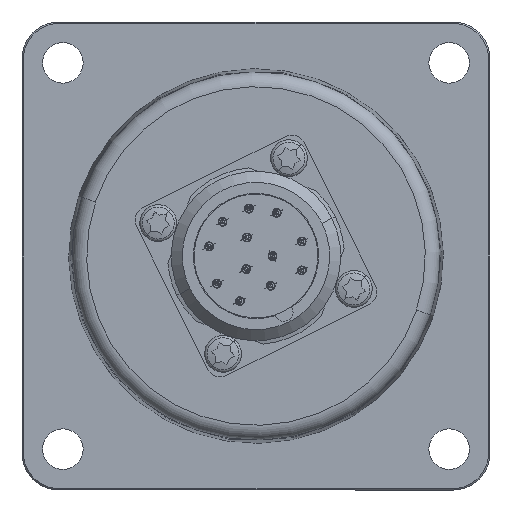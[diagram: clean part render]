
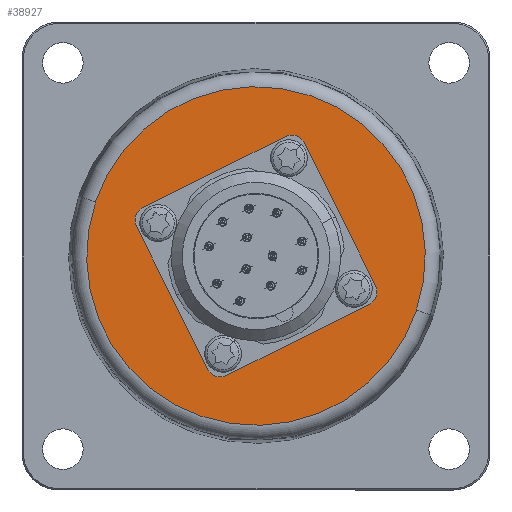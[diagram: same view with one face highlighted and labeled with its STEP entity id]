
A CAD part, left-side view. The second image highlights one B-rep face of the part: STEP entity #38927.
In plain terms, the highlighted planar face has unit normal (-1, 0, 0).
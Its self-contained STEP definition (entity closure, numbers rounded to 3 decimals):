
#472 = DIRECTION ( 'NONE',  ( 0., 0.948, 0.319 ) ) ;
#473 = DIRECTION ( 'NONE',  ( 1., 0., 0. ) ) ;
#474 = CARTESIAN_POINT ( 'NONE',  ( -21., -13.268, -4.469 ) ) ;
#475 = AXIS2_PLACEMENT_3D ( 'NONE', #474, #473, #472 ) ;
#476 = CIRCLE ( 'NONE', #475, 1.389 ) ;
#662 = DIRECTION ( 'NONE',  ( 0., 0.948, 0.319 ) ) ;
#663 = DIRECTION ( 'NONE',  ( 1., 0., 0. ) ) ;
#664 = CARTESIAN_POINT ( 'NONE',  ( -21., -4.469, 13.268 ) ) ;
#665 = AXIS2_PLACEMENT_3D ( 'NONE', #664, #663, #662 ) ;
#666 = CIRCLE ( 'NONE', #665, 1.389 ) ;
#735 = DIRECTION ( 'NONE',  ( 0., 0.948, 0.319 ) ) ;
#736 = DIRECTION ( 'NONE',  ( 1., 0., 0. ) ) ;
#737 = CARTESIAN_POINT ( 'NONE',  ( -21., 4.469, -13.268 ) ) ;
#738 = AXIS2_PLACEMENT_3D ( 'NONE', #737, #736, #735 ) ;
#744 = CIRCLE ( 'NONE', #738, 1.389 ) ;
#788 = DIRECTION ( 'NONE',  ( 0., -0.948, -0.319 ) ) ;
#789 = DIRECTION ( 'NONE',  ( -1., 0., 0. ) ) ;
#790 = CARTESIAN_POINT ( 'NONE',  ( -21., 0., 0. ) ) ;
#791 = AXIS2_PLACEMENT_3D ( 'NONE', #790, #789, #788 ) ;
#792 = CIRCLE ( 'NONE', #791, 11.5 ) ;
#857 = DIRECTION ( 'NONE',  ( 0., 0.948, 0.319 ) ) ;
#858 = DIRECTION ( 'NONE',  ( -1., 0., 0. ) ) ;
#859 = CARTESIAN_POINT ( 'NONE',  ( -21., 0., 0. ) ) ;
#860 = AXIS2_PLACEMENT_3D ( 'NONE', #859, #858, #857 ) ;
#861 = CIRCLE ( 'NONE', #860, 22.972 ) ;
#887 = FACE_BOUND ( 'NONE', #38933, .T. ) ;
#888 = FACE_BOUND ( 'NONE', #38915, .T. ) ;
#916 = CARTESIAN_POINT ( 'NONE',  ( -21., 13.268, 4.469 ) ) ;
#917 = AXIS2_PLACEMENT_3D ( 'NONE', #916, #979, #978 ) ;
#918 = CIRCLE ( 'NONE', #917, 1.389 ) ;
#921 = DIRECTION ( 'NONE',  ( 0., 0.948, 0.319 ) ) ;
#922 = DIRECTION ( 'NONE',  ( 1., 0., 0. ) ) ;
#923 = CARTESIAN_POINT ( 'NONE',  ( -21., 0., 0. ) ) ;
#924 = AXIS2_PLACEMENT_3D ( 'NONE', #923, #922, #921 ) ;
#925 = PLANE ( 'NONE',  #924 ) ;
#940 = FACE_BOUND ( 'NONE', #38920, .T. ) ;
#941 = FACE_OUTER_BOUND ( 'NONE', #16324, .T. ) ;
#942 = FACE_BOUND ( 'NONE', #38867, .T. ) ;
#943 = FACE_BOUND ( 'NONE', #38864, .T. ) ;
#978 = DIRECTION ( 'NONE',  ( 0., 0.948, 0.319 ) ) ;
#979 = DIRECTION ( 'NONE',  ( 1., 0., 0. ) ) ;
#9008 = CARTESIAN_POINT ( 'NONE',  ( -21., -5.785, 12.825 ) ) ;
#9009 = DIRECTION ( 'NONE',  ( 0., 0.948, 0.319 ) ) ;
#9010 = DIRECTION ( 'NONE',  ( 1., 0., 0. ) ) ;
#9011 = CARTESIAN_POINT ( 'NONE',  ( -21., -4.469, 13.268 ) ) ;
#9012 = AXIS2_PLACEMENT_3D ( 'NONE', #9011, #9010, #9009 ) ;
#9013 = CIRCLE ( 'NONE', #9012, 1.389 ) ;
#9014 = CARTESIAN_POINT ( 'NONE',  ( -21., -3.153, 13.712 ) ) ;
#9052 = DIRECTION ( 'NONE',  ( 1., 0., 0. ) ) ;
#9053 = CARTESIAN_POINT ( 'NONE',  ( -21., 4.469, -13.268 ) ) ;
#9054 = AXIS2_PLACEMENT_3D ( 'NONE', #9053, #9052, #9102 ) ;
#9055 = CIRCLE ( 'NONE', #9054, 1.389 ) ;
#9057 = CARTESIAN_POINT ( 'NONE',  ( -21., 5.785, -12.825 ) ) ;
#9101 = CARTESIAN_POINT ( 'NONE',  ( -21., 3.153, -13.712 ) ) ;
#9102 = DIRECTION ( 'NONE',  ( 0., 0.948, 0.319 ) ) ;
#9189 = CARTESIAN_POINT ( 'NONE',  ( -21., -14.584, -4.912 ) ) ;
#9190 = DIRECTION ( 'NONE',  ( 0., 0.948, 0.319 ) ) ;
#9191 = DIRECTION ( 'NONE',  ( 1., 0., 0. ) ) ;
#9192 = CARTESIAN_POINT ( 'NONE',  ( -21., -13.268, -4.469 ) ) ;
#9193 = AXIS2_PLACEMENT_3D ( 'NONE', #9192, #9191, #9190 ) ;
#9194 = CIRCLE ( 'NONE', #9193, 1.389 ) ;
#9195 = CARTESIAN_POINT ( 'NONE',  ( -21., -11.952, -4.026 ) ) ;
#16324 = EDGE_LOOP ( 'NONE', ( #38916, #38848 ) ) ;
#30484 = VERTEX_POINT ( 'NONE', #9014 ) ;
#30486 = EDGE_CURVE ( 'NONE', #30488, #30484, #9013, .T. ) ;
#30488 = VERTEX_POINT ( 'NONE', #9008 ) ;
#30515 = VERTEX_POINT ( 'NONE', #9057 ) ;
#30517 = EDGE_CURVE ( 'NONE', #30519, #30515, #9055, .T. ) ;
#30519 = VERTEX_POINT ( 'NONE', #9101 ) ;
#30580 = VERTEX_POINT ( 'NONE', #9195 ) ;
#30582 = EDGE_CURVE ( 'NONE', #30583, #30580, #9194, .T. ) ;
#30583 = VERTEX_POINT ( 'NONE', #9189 ) ;
#32029 = CARTESIAN_POINT ( 'NONE',  ( -21., 14.584, 4.912 ) ) ;
#32522 = DIRECTION ( 'NONE',  ( 0., 0.948, 0.319 ) ) ;
#32524 = DIRECTION ( 'NONE',  ( 1., 0., 0. ) ) ;
#32526 = CARTESIAN_POINT ( 'NONE',  ( -21., 13.268, 4.469 ) ) ;
#32527 = AXIS2_PLACEMENT_3D ( 'NONE', #32526, #32524, #32522 ) ;
#32528 = CIRCLE ( 'NONE', #32527, 1.389 ) ;
#32533 = CARTESIAN_POINT ( 'NONE',  ( -21., 11.952, 4.026 ) ) ;
#32568 = CARTESIAN_POINT ( 'NONE',  ( -21., 21.77, 7.332 ) ) ;
#32570 = DIRECTION ( 'NONE',  ( 0., 0.948, 0.319 ) ) ;
#32572 = DIRECTION ( 'NONE',  ( -1., 0., 0. ) ) ;
#32574 = CARTESIAN_POINT ( 'NONE',  ( -21., 0., 0. ) ) ;
#32576 = AXIS2_PLACEMENT_3D ( 'NONE', #32574, #32572, #32570 ) ;
#32577 = CIRCLE ( 'NONE', #32576, 22.972 ) ;
#32616 = CARTESIAN_POINT ( 'NONE',  ( -21., -21.77, -7.332 ) ) ;
#33937 = CARTESIAN_POINT ( 'NONE',  ( -21., 10.898, 3.671 ) ) ;
#34169 = DIRECTION ( 'NONE',  ( 0., -0.948, -0.319 ) ) ;
#34170 = DIRECTION ( 'NONE',  ( -1., 0., 0. ) ) ;
#34171 = CARTESIAN_POINT ( 'NONE',  ( -21., 0., 0. ) ) ;
#34173 = AXIS2_PLACEMENT_3D ( 'NONE', #34171, #34170, #34169 ) ;
#34175 = CIRCLE ( 'NONE', #34173, 11.5 ) ;
#34302 = CARTESIAN_POINT ( 'NONE',  ( -21., -10.898, -3.671 ) ) ;
#38166 = VERTEX_POINT ( 'NONE', #32029 ) ;
#38216 = VERTEX_POINT ( 'NONE', #32533 ) ;
#38217 = EDGE_CURVE ( 'NONE', #38216, #38166, #32528, .T. ) ;
#38224 = EDGE_CURVE ( 'NONE', #38241, #38225, #32577, .T. ) ;
#38225 = VERTEX_POINT ( 'NONE', #32568 ) ;
#38241 = VERTEX_POINT ( 'NONE', #32616 ) ;
#38420 = VERTEX_POINT ( 'NONE', #33937 ) ;
#38447 = EDGE_CURVE ( 'NONE', #38420, #38448, #34175, .T. ) ;
#38448 = VERTEX_POINT ( 'NONE', #34302 ) ;
#38753 = EDGE_CURVE ( 'NONE', #30580, #30583, #476, .T. ) ;
#38824 = ORIENTED_EDGE ( 'NONE', *, *, #30582, .T. ) ;
#38847 = ORIENTED_EDGE ( 'NONE', *, *, #38934, .T. ) ;
#38848 = ORIENTED_EDGE ( 'NONE', *, *, #38224, .T. ) ;
#38851 = ORIENTED_EDGE ( 'NONE', *, *, #38890, .F. ) ;
#38863 = ORIENTED_EDGE ( 'NONE', *, *, #38865, .T. ) ;
#38864 = EDGE_LOOP ( 'NONE', ( #38956, #38863 ) ) ;
#38865 = EDGE_CURVE ( 'NONE', #30484, #30488, #666, .T. ) ;
#38867 = EDGE_LOOP ( 'NONE', ( #38824, #38929 ) ) ;
#38880 = EDGE_CURVE ( 'NONE', #30515, #30519, #744, .T. ) ;
#38881 = ORIENTED_EDGE ( 'NONE', *, *, #38880, .T. ) ;
#38888 = ORIENTED_EDGE ( 'NONE', *, *, #38447, .F. ) ;
#38890 = EDGE_CURVE ( 'NONE', #38448, #38420, #792, .T. ) ;
#38915 = EDGE_LOOP ( 'NONE', ( #38932, #38847 ) ) ;
#38916 = ORIENTED_EDGE ( 'NONE', *, *, #38919, .T. ) ;
#38919 = EDGE_CURVE ( 'NONE', #38225, #38241, #861, .T. ) ;
#38920 = EDGE_LOOP ( 'NONE', ( #38851, #38888 ) ) ;
#38927 = ADVANCED_FACE ( 'NONE', ( #888, #887, #943, #942, #941, #940 ), #925, .F. ) ;
#38929 = ORIENTED_EDGE ( 'NONE', *, *, #38753, .T. ) ;
#38932 = ORIENTED_EDGE ( 'NONE', *, *, #38217, .T. ) ;
#38933 = EDGE_LOOP ( 'NONE', ( #38951, #38881 ) ) ;
#38934 = EDGE_CURVE ( 'NONE', #38166, #38216, #918, .T. ) ;
#38951 = ORIENTED_EDGE ( 'NONE', *, *, #30517, .T. ) ;
#38956 = ORIENTED_EDGE ( 'NONE', *, *, #30486, .T. ) ;
